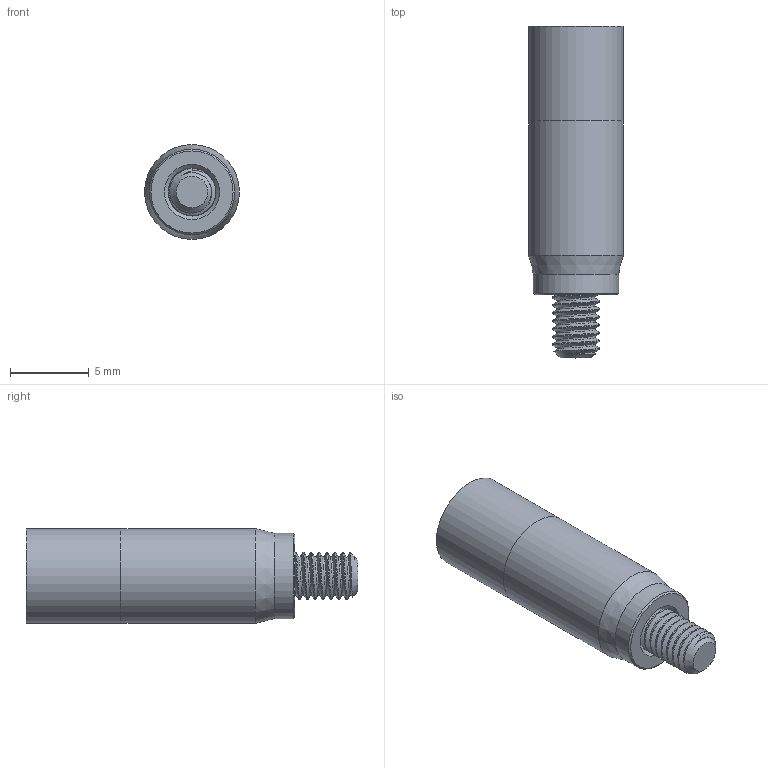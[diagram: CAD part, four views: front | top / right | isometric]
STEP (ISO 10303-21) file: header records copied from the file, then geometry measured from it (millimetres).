
FILE_DESCRIPTION (( 'STEP AP214' ), '1' );
FILE_NAME ('DAPF-6.STEP', '2018-10-09T18:08:31', ( '' ), ( '' ), 'SwSTEP 2.0', 'SolidWorks 2017', '' );
FILE_SCHEMA (( 'AUTOMOTIVE_DESIGN' ));
Length unit declared in the file: millimetre
Products named in the file (3): DAPF-6; Schraube-M3; DAP-6
Assembly tree (2 placements, depth 2):
  DAPF-6
    DAP-6
    Schraube-M3
Bounding box: 6 x 21.01 x 6 mm (x, y, z)
Volume: 449.7 mm3; surface area: 633 mm2
Topology: 3 solids, 3 shells, 107 faces, 273 edges, 181 vertices
Faces by surface type: plane 53, cylinder 41, cone 7, bspline 6
Full cylindrical faces by diameter (mm): 2.5 x6, 3.1 x1, 5.4 x1, 6 x2
Entity records: 8732 total; most frequent: CARTESIAN_POINT 6357, ORIENTED_EDGE 470, DIRECTION 360, EDGE_CURVE 235, VERTEX_POINT 161, VECTOR 132, LINE 132, EDGE_LOOP 120
